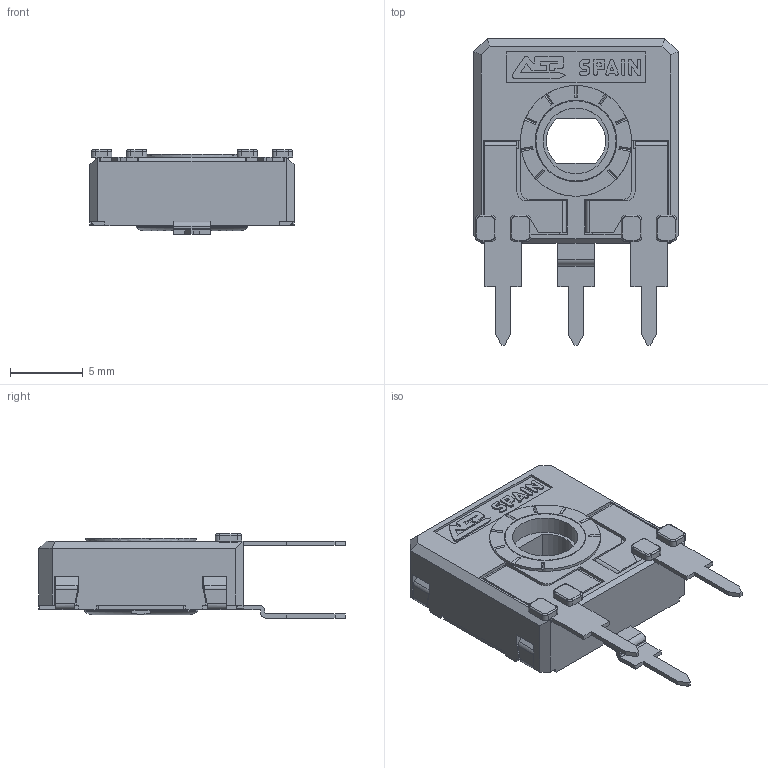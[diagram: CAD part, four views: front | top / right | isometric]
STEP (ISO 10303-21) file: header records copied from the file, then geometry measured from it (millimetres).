
FILE_DESCRIPTION(/* description */ (''),/* implementation_level */ '2;1');
FILE_NAME(/* name */ 'C:\Users\CEM\Desktop\ENVIAR\TRANSICION 3D CATALOGOS\RS14NH5.stp',/* time_stamp */ '2025-12-10T11:22:00+01:00',/* author */ ('CEM'),/* organization */ (''),/* preprocessor_version */ 'ST-DEVELOPER v16.13',/* originating_system */ 'Autodesk Inventor 2018',/* authorisation */ '');
FILE_SCHEMA (('AUTOMOTIVE_DESIGN { 1 0 10303 214 3 1 1 }'));
Length unit declared in the file: millimetre
Products named in the file (1): CARCASA CA14 PGA
Bounding box: 14 x 21 x 5.8 mm (x, y, z)
Volume: 521.9 mm3; surface area: 1436.4 mm2
Topology: 1 solids, 1 shells, 663 faces, 1863 edges, 1197 vertices
Faces by surface type: plane 491, cylinder 135, torus 23, bspline 8, cone 6
Full cylindrical faces by diameter (mm): 4.5 x1, 5.5 x1, 5.6 x1, 5.752 x1, 6.8 x1, 7.6 x1
Entity records: 21423 total; most frequent: CARTESIAN_POINT 3916, ORIENTED_EDGE 3696, DIRECTION 3486, EDGE_CURVE 1848, LINE 1466, VECTOR 1466, VERTEX_POINT 1192, AXIS2_PLACEMENT_3D 1010
